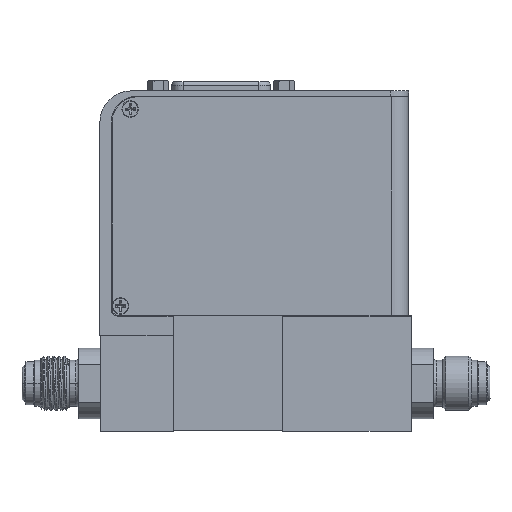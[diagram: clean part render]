
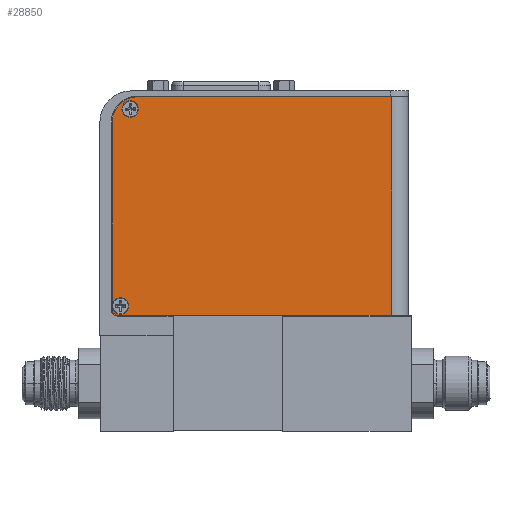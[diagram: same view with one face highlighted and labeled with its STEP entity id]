
A CAD part, top view. The second image highlights one B-rep face of the part: STEP entity #28850.
In plain terms, the highlighted planar face has unit normal (0, 0, 1).
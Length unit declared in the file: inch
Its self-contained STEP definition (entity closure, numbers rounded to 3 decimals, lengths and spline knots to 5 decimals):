
#1255 = LINE ( 'NONE', #11870, #2368 ) ;
#2368 = VECTOR ( 'NONE', #27966, 39.37008 ) ;
#3169 = AXIS2_PLACEMENT_3D ( 'NONE', #17246, #14368, #61080 ) ;
#4875 = DIRECTION ( 'NONE',  ( 0., -1., 0. ) ) ;
#5489 = VECTOR ( 'NONE', #65290, 39.37008 ) ;
#6433 = EDGE_LOOP ( 'NONE', ( #27494, #41859 ) ) ;
#6549 = VERTEX_POINT ( 'NONE', #15102 ) ;
#6839 = EDGE_CURVE ( 'NONE', #50096, #50391, #37157, .T. ) ;
#7241 = VERTEX_POINT ( 'NONE', #15683 ) ;
#9592 = DIRECTION ( 'NONE',  ( 0., 0., -1. ) ) ;
#11113 = CIRCLE ( 'NONE', #15854, 0.086 ) ;
#11870 = CARTESIAN_POINT ( 'NONE',  ( 3.80006, 2.50084, 3.07351 ) ) ;
#13066 = CIRCLE ( 'NONE', #3169, 0.27 ) ;
#13404 = CARTESIAN_POINT ( 'NONE',  ( 0.82906, 2.59884, 3.07351 ) ) ;
#13877 = CARTESIAN_POINT ( 'NONE',  ( 3.66006, 4.78184, 3.07351 ) ) ;
#14368 = DIRECTION ( 'NONE',  ( 0., 0., -1. ) ) ;
#15102 = CARTESIAN_POINT ( 'NONE',  ( 3.66006, 4.78184, 3.07351 ) ) ;
#15683 = CARTESIAN_POINT ( 'NONE',  ( 0.74106, 2.56384, 3.07351 ) ) ;
#15854 = AXIS2_PLACEMENT_3D ( 'NONE', #23867, #54362, #59551 ) ;
#17131 = EDGE_CURVE ( 'NONE', #60034, #34133, #39256, .T. ) ;
#17205 = CARTESIAN_POINT ( 'NONE',  ( 0.74306, 2.59884, 3.07351 ) ) ;
#17246 = CARTESIAN_POINT ( 'NONE',  ( 1.01106, 4.51184, 3.07351 ) ) ;
#17967 = EDGE_CURVE ( 'NONE', #64938, #6549, #20409, .T. ) ;
#18467 = DIRECTION ( 'NONE',  ( 0., 0., 1. ) ) ;
#19749 = ORIENTED_EDGE ( 'NONE', *, *, #57211, .F. ) ;
#20409 = LINE ( 'NONE', #60051, #64159 ) ;
#22393 = VERTEX_POINT ( 'NONE', #60816 ) ;
#23656 = CARTESIAN_POINT ( 'NONE',  ( 0.74106, 4.78184, 3.07351 ) ) ;
#23866 = ORIENTED_EDGE ( 'NONE', *, *, #45994, .F. ) ;
#23867 = CARTESIAN_POINT ( 'NONE',  ( 0.93106, 4.65284, 3.07351 ) ) ;
#24433 = CIRCLE ( 'NONE', #27984, 0.063 ) ;
#27494 = ORIENTED_EDGE ( 'NONE', *, *, #6839, .F. ) ;
#27966 = DIRECTION ( 'NONE',  ( -1., 0., 0. ) ) ;
#27984 = AXIS2_PLACEMENT_3D ( 'NONE', #63092, #46972, #41389 ) ;
#28106 = ORIENTED_EDGE ( 'NONE', *, *, #46376, .F. ) ;
#28269 = LINE ( 'NONE', #23656, #5489 ) ;
#28850 = ADVANCED_FACE ( 'NONE', ( #36170, #36282, #58514 ), #61475, .F. ) ;
#29576 = VERTEX_POINT ( 'NONE', #55004 ) ;
#30449 = EDGE_CURVE ( 'NONE', #29576, #60337, #1255, .T. ) ;
#32208 = AXIS2_PLACEMENT_3D ( 'NONE', #52114, #46268, #41122 ) ;
#32847 = ORIENTED_EDGE ( 'NONE', *, *, #17131, .F. ) ;
#34111 = CARTESIAN_POINT ( 'NONE',  ( 1.01706, 4.65284, 3.07351 ) ) ;
#34133 = VERTEX_POINT ( 'NONE', #17205 ) ;
#34892 = CARTESIAN_POINT ( 'NONE',  ( 0.82906, 2.59884, 3.07351 ) ) ;
#35098 = EDGE_LOOP ( 'NONE', ( #45936, #56171, #60998, #23866, #44784, #28106 ) ) ;
#35861 = CARTESIAN_POINT ( 'NONE',  ( 3.66006, 4.78184, 3.07351 ) ) ;
#36170 = FACE_BOUND ( 'NONE', #60263, .T. ) ;
#36282 = FACE_BOUND ( 'NONE', #6433, .T. ) ;
#37157 = CIRCLE ( 'NONE', #32208, 0.086 ) ;
#38691 = DIRECTION ( 'NONE',  ( 0., 0., 1. ) ) ;
#39256 = CIRCLE ( 'NONE', #43806, 0.086 ) ;
#40583 = CARTESIAN_POINT ( 'NONE',  ( 1.01106, 4.78184, 3.07351 ) ) ;
#41122 = DIRECTION ( 'NONE',  ( 1., 0., 0. ) ) ;
#41389 = DIRECTION ( 'NONE',  ( 1., 0., 0. ) ) ;
#41859 = ORIENTED_EDGE ( 'NONE', *, *, #62103, .F. ) ;
#43806 = AXIS2_PLACEMENT_3D ( 'NONE', #13404, #18467, #51884 ) ;
#44784 = ORIENTED_EDGE ( 'NONE', *, *, #30449, .F. ) ;
#45562 = DIRECTION ( 'NONE',  ( 1., 0., 0. ) ) ;
#45936 = ORIENTED_EDGE ( 'NONE', *, *, #17967, .F. ) ;
#45994 = EDGE_CURVE ( 'NONE', #60337, #7241, #24433, .T. ) ;
#46081 = DIRECTION ( 'NONE',  ( 1., 0., 0. ) ) ;
#46268 = DIRECTION ( 'NONE',  ( 0., 0., 1. ) ) ;
#46376 = EDGE_CURVE ( 'NONE', #6549, #29576, #48227, .T. ) ;
#46665 = EDGE_CURVE ( 'NONE', #7241, #22393, #28269, .T. ) ;
#46972 = DIRECTION ( 'NONE',  ( 0., 0., -1. ) ) ;
#47135 = CARTESIAN_POINT ( 'NONE',  ( 0.84506, 4.65284, 3.07351 ) ) ;
#47391 = VECTOR ( 'NONE', #4875, 39.37008 ) ;
#48154 = CARTESIAN_POINT ( 'NONE',  ( 0.80406, 2.50084, 3.07351 ) ) ;
#48227 = LINE ( 'NONE', #35861, #47391 ) ;
#48652 = EDGE_CURVE ( 'NONE', #22393, #64938, #13066, .T. ) ;
#50096 = VERTEX_POINT ( 'NONE', #34111 ) ;
#50391 = VERTEX_POINT ( 'NONE', #47135 ) ;
#51884 = DIRECTION ( 'NONE',  ( 1., 0., 0. ) ) ;
#52114 = CARTESIAN_POINT ( 'NONE',  ( 0.93106, 4.65284, 3.07351 ) ) ;
#54362 = DIRECTION ( 'NONE',  ( 0., 0., 1. ) ) ;
#54547 = DIRECTION ( 'NONE',  ( -1., 0., 0. ) ) ;
#55004 = CARTESIAN_POINT ( 'NONE',  ( 3.66006, 2.50084, 3.07351 ) ) ;
#56135 = CIRCLE ( 'NONE', #61303, 0.086 ) ;
#56171 = ORIENTED_EDGE ( 'NONE', *, *, #48652, .F. ) ;
#57211 = EDGE_CURVE ( 'NONE', #34133, #60034, #56135, .T. ) ;
#58514 = FACE_OUTER_BOUND ( 'NONE', #35098, .T. ) ;
#59551 = DIRECTION ( 'NONE',  ( 1., 0., 0. ) ) ;
#60034 = VERTEX_POINT ( 'NONE', #64617 ) ;
#60051 = CARTESIAN_POINT ( 'NONE',  ( 3.66006, 4.78184, 3.07351 ) ) ;
#60263 = EDGE_LOOP ( 'NONE', ( #32847, #19749 ) ) ;
#60337 = VERTEX_POINT ( 'NONE', #48154 ) ;
#60816 = CARTESIAN_POINT ( 'NONE',  ( 0.74106, 4.51184, 3.07351 ) ) ;
#60998 = ORIENTED_EDGE ( 'NONE', *, *, #46665, .F. ) ;
#61080 = DIRECTION ( 'NONE',  ( -1., 0., 0. ) ) ;
#61303 = AXIS2_PLACEMENT_3D ( 'NONE', #34892, #38691, #45562 ) ;
#61475 = PLANE ( 'NONE',  #62924 ) ;
#62103 = EDGE_CURVE ( 'NONE', #50391, #50096, #11113, .T. ) ;
#62924 = AXIS2_PLACEMENT_3D ( 'NONE', #13877, #9592, #54547 ) ;
#63092 = CARTESIAN_POINT ( 'NONE',  ( 0.80406, 2.56384, 3.07351 ) ) ;
#64159 = VECTOR ( 'NONE', #46081, 39.37008 ) ;
#64617 = CARTESIAN_POINT ( 'NONE',  ( 0.91506, 2.59884, 3.07351 ) ) ;
#64938 = VERTEX_POINT ( 'NONE', #40583 ) ;
#65290 = DIRECTION ( 'NONE',  ( 0., 1., 0. ) ) ;
